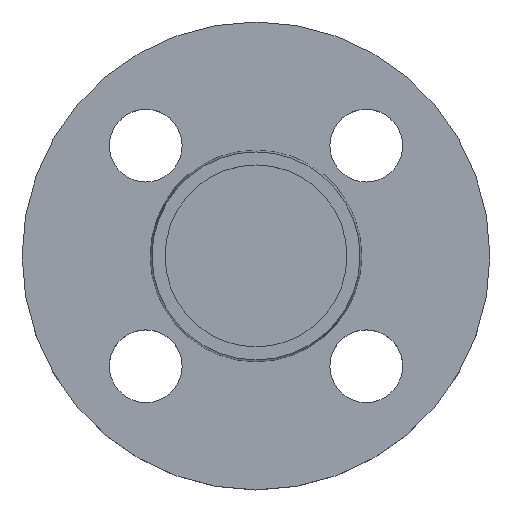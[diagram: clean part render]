
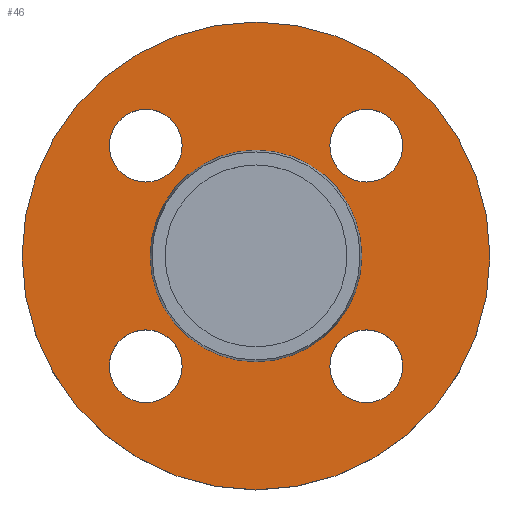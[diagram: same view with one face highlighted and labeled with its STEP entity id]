
A CAD part, top view. The second image highlights one B-rep face of the part: STEP entity #46.
In plain terms, the highlighted planar face has unit normal (0, 0, 1).
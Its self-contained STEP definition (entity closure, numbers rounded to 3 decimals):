
#1 = AXIS2_PLACEMENT_3D ( 'NONE', #485, #486, #487 ) ;
#4 = CIRCLE ( 'NONE', #1, 7. ) ;
#8 = EDGE_CURVE ( 'NONE', #264, #288, #40, .T. ) ;
#9 = CIRCLE ( 'NONE', #113, 7. ) ;
#11 = AXIS2_PLACEMENT_3D ( 'NONE', #411, #412, #413 ) ;
#16 = CIRCLE ( 'NONE', #22, 45. ) ;
#19 = CIRCLE ( 'NONE', #477, 7. ) ;
#20 = EDGE_CURVE ( 'NONE', #250, #377, #62, .T. ) ;
#22 = AXIS2_PLACEMENT_3D ( 'NONE', #159, #160, #162 ) ;
#32 = AXIS2_PLACEMENT_3D ( 'NONE', #150, #151, #153 ) ;
#33 = CIRCLE ( 'NONE', #32, 7. ) ;
#34 = CIRCLE ( 'NONE', #104, 7. ) ;
#40 = CIRCLE ( 'NONE', #11, 20.353 ) ;
#46 = ADVANCED_FACE ( 'NONE', ( #431, #432, #433, #434, #436, #437 ), #438, .T. ) ;
#61 = CIRCLE ( 'NONE', #63, 7. ) ;
#62 = CIRCLE ( 'NONE', #402, 7. ) ;
#63 = AXIS2_PLACEMENT_3D ( 'NONE', #518, #519, #520 ) ;
#64 = EDGE_CURVE ( 'NONE', #254, #262, #101, .T. ) ;
#67 = AXIS2_PLACEMENT_3D ( 'NONE', #448, #449, #450 ) ;
#75 = EDGE_CURVE ( 'NONE', #377, #250, #186, .T. ) ;
#97 = EDGE_CURVE ( 'NONE', #288, #264, #106, .T. ) ;
#98 = CARTESIAN_POINT ( 'NONE',  ( 14.213, 21.213, -2. ) ) ;
#101 = CIRCLE ( 'NONE', #67, 45. ) ;
#104 = AXIS2_PLACEMENT_3D ( 'NONE', #514, #516, #517 ) ;
#105 = EDGE_CURVE ( 'NONE', #343, #360, #4, .T. ) ;
#106 = CIRCLE ( 'NONE', #442, 20.353 ) ;
#113 = AXIS2_PLACEMENT_3D ( 'NONE', #209, #213, #215 ) ;
#124 = AXIS2_PLACEMENT_3D ( 'NONE', #439, #440, #441 ) ;
#129 = CARTESIAN_POINT ( 'NONE',  ( 28.213, -21.213, -2. ) ) ;
#133 = CARTESIAN_POINT ( 'NONE',  ( -28.213, -21.213, -2. ) ) ;
#137 = CARTESIAN_POINT ( 'NONE',  ( 28.213, 21.213, -2. ) ) ;
#140 = CARTESIAN_POINT ( 'NONE',  ( -14.213, 21.213, -2. ) ) ;
#150 = CARTESIAN_POINT ( 'NONE',  ( 21.213, 21.213, -2. ) ) ;
#151 = DIRECTION ( 'NONE',  ( 0., 0., -1. ) ) ;
#152 = AXIS2_PLACEMENT_3D ( 'NONE', #454, #467, #469 ) ;
#153 = DIRECTION ( 'NONE',  ( 1., 0., 0. ) ) ;
#159 = CARTESIAN_POINT ( 'NONE',  ( 0., 0., -2. ) ) ;
#160 = DIRECTION ( 'NONE',  ( 0., 0., -1. ) ) ;
#162 = DIRECTION ( 'NONE',  ( -1., 0., 0. ) ) ;
#163 = CARTESIAN_POINT ( 'NONE',  ( 21.213, -21.213, -2. ) ) ;
#164 = DIRECTION ( 'NONE',  ( 0., 0., -1. ) ) ;
#165 = DIRECTION ( 'NONE',  ( 1., 0., 0. ) ) ;
#186 = CIRCLE ( 'NONE', #152, 7. ) ;
#191 = EDGE_CURVE ( 'NONE', #241, #385, #34, .T. ) ;
#197 = EDGE_CURVE ( 'NONE', #385, #241, #61, .T. ) ;
#209 = CARTESIAN_POINT ( 'NONE',  ( 21.213, 21.213, -2. ) ) ;
#213 = DIRECTION ( 'NONE',  ( 0., 0., -1. ) ) ;
#215 = DIRECTION ( 'NONE',  ( 1., 0., 0. ) ) ;
#241 = VERTEX_POINT ( 'NONE', #554 ) ;
#242 = EDGE_LOOP ( 'NONE', ( #321, #322 ) ) ;
#243 = EDGE_LOOP ( 'NONE', ( #311, #312 ) ) ;
#248 = EDGE_LOOP ( 'NONE', ( #316, #317 ) ) ;
#250 = VERTEX_POINT ( 'NONE', #559 ) ;
#254 = VERTEX_POINT ( 'NONE', #563 ) ;
#262 = VERTEX_POINT ( 'NONE', #570 ) ;
#264 = VERTEX_POINT ( 'NONE', #572 ) ;
#288 = VERTEX_POINT ( 'NONE', #581 ) ;
#308 = ORIENTED_EDGE ( 'NONE', *, *, #435, .T. ) ;
#309 = ORIENTED_EDGE ( 'NONE', *, *, #105, .T. ) ;
#311 = ORIENTED_EDGE ( 'NONE', *, *, #20, .T. ) ;
#312 = ORIENTED_EDGE ( 'NONE', *, *, #75, .T. ) ;
#314 = ORIENTED_EDGE ( 'NONE', *, *, #197, .T. ) ;
#315 = ORIENTED_EDGE ( 'NONE', *, *, #191, .T. ) ;
#316 = ORIENTED_EDGE ( 'NONE', *, *, #578, .T. ) ;
#317 = ORIENTED_EDGE ( 'NONE', *, *, #407, .T. ) ;
#318 = ORIENTED_EDGE ( 'NONE', *, *, #8, .T. ) ;
#319 = ORIENTED_EDGE ( 'NONE', *, *, #97, .T. ) ;
#321 = ORIENTED_EDGE ( 'NONE', *, *, #64, .F. ) ;
#322 = ORIENTED_EDGE ( 'NONE', *, *, #420, .F. ) ;
#343 = VERTEX_POINT ( 'NONE', #595 ) ;
#346 = VERTEX_POINT ( 'NONE', #98 ) ;
#360 = VERTEX_POINT ( 'NONE', #129 ) ;
#370 = EDGE_LOOP ( 'NONE', ( #318, #319 ) ) ;
#373 = EDGE_LOOP ( 'NONE', ( #308, #309 ) ) ;
#377 = VERTEX_POINT ( 'NONE', #133 ) ;
#380 = VERTEX_POINT ( 'NONE', #137 ) ;
#381 = EDGE_LOOP ( 'NONE', ( #314, #315 ) ) ;
#385 = VERTEX_POINT ( 'NONE', #140 ) ;
#402 = AXIS2_PLACEMENT_3D ( 'NONE', #417, #418, #419 ) ;
#407 = EDGE_CURVE ( 'NONE', #346, #380, #33, .T. ) ;
#411 = CARTESIAN_POINT ( 'NONE',  ( 0., 0., -2. ) ) ;
#412 = DIRECTION ( 'NONE',  ( 0., 0., -1. ) ) ;
#413 = DIRECTION ( 'NONE',  ( -1., 0., 0. ) ) ;
#417 = CARTESIAN_POINT ( 'NONE',  ( -21.213, -21.213, -2. ) ) ;
#418 = DIRECTION ( 'NONE',  ( 0., 0., -1. ) ) ;
#419 = DIRECTION ( 'NONE',  ( 1., 0., 0. ) ) ;
#420 = EDGE_CURVE ( 'NONE', #262, #254, #16, .T. ) ;
#431 = FACE_BOUND ( 'NONE', #373, .T. ) ;
#432 = FACE_BOUND ( 'NONE', #243, .T. ) ;
#433 = FACE_BOUND ( 'NONE', #381, .T. ) ;
#434 = FACE_BOUND ( 'NONE', #248, .T. ) ;
#435 = EDGE_CURVE ( 'NONE', #360, #343, #19, .T. ) ;
#436 = FACE_BOUND ( 'NONE', #370, .T. ) ;
#437 = FACE_OUTER_BOUND ( 'NONE', #242, .T. ) ;
#438 = PLANE ( 'NONE',  #124 ) ;
#439 = CARTESIAN_POINT ( 'NONE',  ( 20.353, 0., -2. ) ) ;
#440 = DIRECTION ( 'NONE',  ( 0., 0., 1. ) ) ;
#441 = DIRECTION ( 'NONE',  ( 1., 0., 0. ) ) ;
#442 = AXIS2_PLACEMENT_3D ( 'NONE', #478, #479, #481 ) ;
#448 = CARTESIAN_POINT ( 'NONE',  ( 0., 0., -2. ) ) ;
#449 = DIRECTION ( 'NONE',  ( 0., 0., -1. ) ) ;
#450 = DIRECTION ( 'NONE',  ( -1., 0., 0. ) ) ;
#454 = CARTESIAN_POINT ( 'NONE',  ( -21.213, -21.213, -2. ) ) ;
#467 = DIRECTION ( 'NONE',  ( 0., 0., -1. ) ) ;
#469 = DIRECTION ( 'NONE',  ( 1., 0., 0. ) ) ;
#477 = AXIS2_PLACEMENT_3D ( 'NONE', #163, #164, #165 ) ;
#478 = CARTESIAN_POINT ( 'NONE',  ( 0., 0., -2. ) ) ;
#479 = DIRECTION ( 'NONE',  ( 0., 0., -1. ) ) ;
#481 = DIRECTION ( 'NONE',  ( -1., 0., 0. ) ) ;
#485 = CARTESIAN_POINT ( 'NONE',  ( 21.213, -21.213, -2. ) ) ;
#486 = DIRECTION ( 'NONE',  ( 0., 0., -1. ) ) ;
#487 = DIRECTION ( 'NONE',  ( 1., 0., 0. ) ) ;
#514 = CARTESIAN_POINT ( 'NONE',  ( -21.213, 21.213, -2. ) ) ;
#516 = DIRECTION ( 'NONE',  ( 0., 0., -1. ) ) ;
#517 = DIRECTION ( 'NONE',  ( 1., 0., 0. ) ) ;
#518 = CARTESIAN_POINT ( 'NONE',  ( -21.213, 21.213, -2. ) ) ;
#519 = DIRECTION ( 'NONE',  ( 0., 0., -1. ) ) ;
#520 = DIRECTION ( 'NONE',  ( 1., 0., 0. ) ) ;
#554 = CARTESIAN_POINT ( 'NONE',  ( -28.213, 21.213, -2. ) ) ;
#559 = CARTESIAN_POINT ( 'NONE',  ( -14.213, -21.213, -2. ) ) ;
#563 = CARTESIAN_POINT ( 'NONE',  ( 45., 0., -2. ) ) ;
#570 = CARTESIAN_POINT ( 'NONE',  ( -45., 0., -2. ) ) ;
#572 = CARTESIAN_POINT ( 'NONE',  ( -20.353, 0., -2. ) ) ;
#578 = EDGE_CURVE ( 'NONE', #380, #346, #9, .T. ) ;
#581 = CARTESIAN_POINT ( 'NONE',  ( 20.353, 0., -2. ) ) ;
#595 = CARTESIAN_POINT ( 'NONE',  ( 14.213, -21.213, -2. ) ) ;
